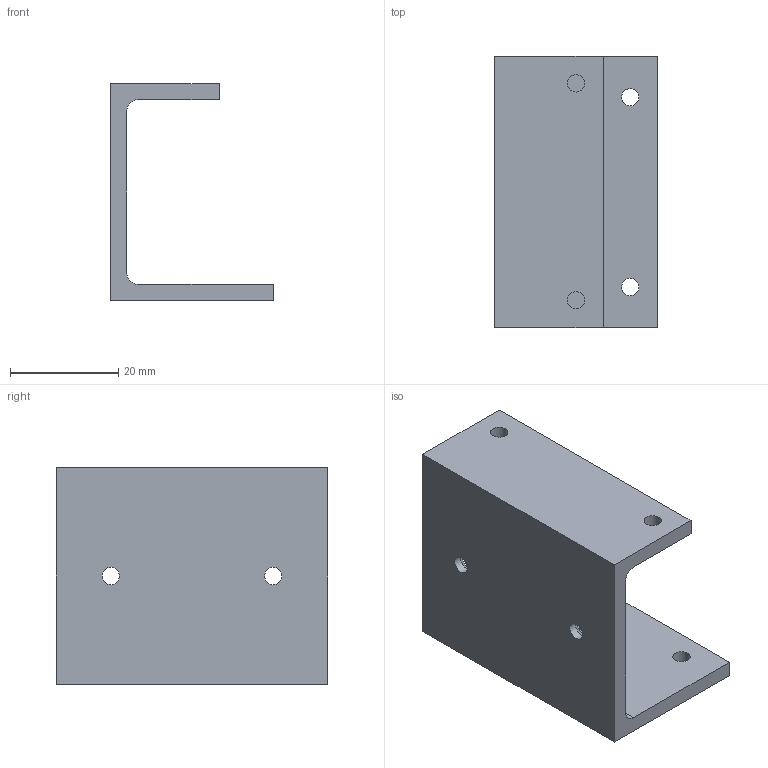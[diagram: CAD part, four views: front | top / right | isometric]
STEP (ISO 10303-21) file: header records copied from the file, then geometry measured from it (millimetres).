
FILE_DESCRIPTION(('FreeCAD Model'),'2;1');
FILE_NAME('/home/alexandre/Bureau/Cours-FreeCAD/Exemples/Assemblage/Piece-1.step', '2016-05-29T10:24:54',('Almisuifre'),(''), 'Open CASCADE STEP processor 6.8','FreeCAD','Unknown');
FILE_SCHEMA(('AUTOMOTIVE_DESIGN_CC2 { 1 2 10303 214 -1 1 5 4 }'));
Length unit declared in the file: millimetre
Products named in the file (2): ASSEMBLY; Chamfer001
Assembly tree (1 placements, depth 2):
  ASSEMBLY
    Chamfer001
Bounding box: 30 x 50 x 40 mm (x, y, z)
Volume: 12511.4 mm3; surface area: 9194.2 mm2
Topology: 1 solids, 1 shells, 20 faces, 52 edges, 34 vertices
Faces by surface type: plane 10, cylinder 8, cone 2
Full cylindrical faces by diameter (mm): 3.2 x6
Entity records: 1383 total; most frequent: CARTESIAN_POINT 276, DIRECTION 204, LINE 118, VECTOR 118, ORIENTED_EDGE 104, PCURVE 104, DEFINITIONAL_REPRESENTATION 104, EDGE_CURVE 52
